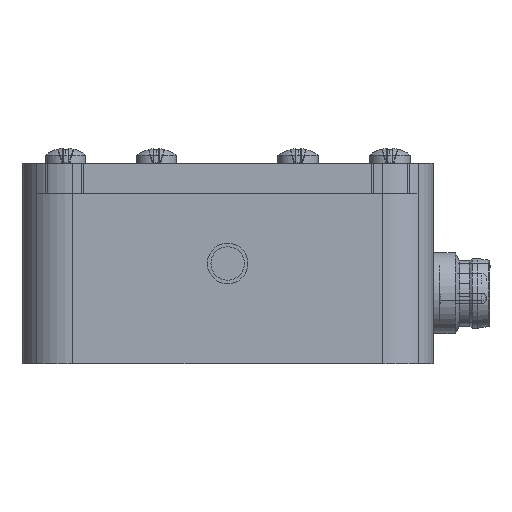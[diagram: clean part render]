
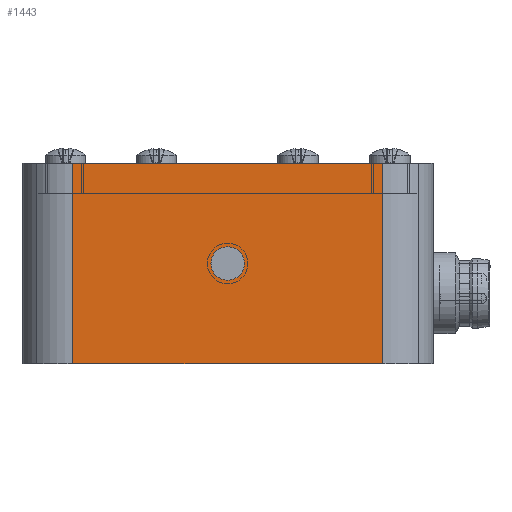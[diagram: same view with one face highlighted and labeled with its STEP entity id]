
A CAD part, left-side view. The second image highlights one B-rep face of the part: STEP entity #1443.
In plain terms, the highlighted planar face has unit normal (-1, 0, 0).
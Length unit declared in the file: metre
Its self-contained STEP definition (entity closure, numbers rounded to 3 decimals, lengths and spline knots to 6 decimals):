
#1443=ADVANCED_FACE('91:918',(#3264,#3265),#3266,.T.);
#3264=FACE_BOUND('',#5779,.T.);
#3265=FACE_OUTER_BOUND('',#5780,.T.);
#3266=PLANE('',#5781);
#5779=EDGE_LOOP('',(#10745,#10746));
#5780=EDGE_LOOP('',(#10747,#10748,#10749,#10750));
#5781=AXIS2_PLACEMENT_3D('',#10751,#10752,#10753);
#10745=ORIENTED_EDGE('',*,*,#16010,.T.);
#10746=ORIENTED_EDGE('',*,*,#16629,.T.);
#10747=ORIENTED_EDGE('',*,*,#15784,.F.);
#10748=ORIENTED_EDGE('',*,*,#16720,.T.);
#10749=ORIENTED_EDGE('',*,*,#16740,.F.);
#10750=ORIENTED_EDGE('',*,*,#16776,.T.);
#10751=CARTESIAN_POINT('',(-0.1721,0.0,0.0));
#10752=DIRECTION('',(-1.0,0.0,0.0));
#10753=DIRECTION('',(0.0,-1.0,0.0));
#15784=EDGE_CURVE('91:2376',#18614,#18616,#18617,.T.);
#16010=EDGE_CURVE('91:1818',#19038,#19042,#19044,.T.);
#16629=EDGE_CURVE('91:1818',#19042,#19038,#20065,.T.);
#16720=EDGE_CURVE('91:2202',#18614,#20180,#20182,.T.);
#16740=EDGE_CURVE('91:2265',#20209,#20180,#20211,.T.);
#16776=EDGE_CURVE('91:2379',#20209,#18616,#20249,.F.);
#18614=VERTEX_POINT('',#23125);
#18616=VERTEX_POINT('',#23127);
#18617=LINE('',#23128,#23129);
#19038=VERTEX_POINT('',#23732);
#19042=VERTEX_POINT('',#23737);
#19044=CIRCLE('',#23740,0.00165);
#20065=CIRCLE('',#24978,0.00165);
#20180=VERTEX_POINT('',#25164);
#20182=LINE('',#25166,#25167);
#20209=VERTEX_POINT('',#25205);
#20211=LINE('',#25207,#25208);
#20249=LINE('',#25251,#25252);
#23125=CARTESIAN_POINT('',(-0.1721,0.0153,0.0));
#23127=CARTESIAN_POINT('',(-0.1721,0.0153,0.0198));
#23128=CARTESIAN_POINT('',(-0.1721,0.0153,0.0));
#23129=VECTOR('',#30526,1.0);
#23732=CARTESIAN_POINT('',(-0.1721,0.00165,0.0099));
#23737=CARTESIAN_POINT('',(-0.1721,-0.00165,0.0099));
#23740=AXIS2_PLACEMENT_3D('',#30957,#30958,#30959);
#24978=AXIS2_PLACEMENT_3D('',#32380,#32381,#32382);
#25164=CARTESIAN_POINT('',(-0.1721,-0.0153,0.0));
#25166=CARTESIAN_POINT('',(-0.1721,0.0,0.0));
#25167=VECTOR('',#32577,1.0);
#25205=CARTESIAN_POINT('',(-0.1721,-0.0153,0.0198));
#25207=CARTESIAN_POINT('',(-0.1721,-0.0153,0.0));
#25208=VECTOR('',#32613,1.0);
#25251=CARTESIAN_POINT('',(-0.1721,0.0,0.0198));
#25252=VECTOR('',#32709,1.0);
#30526=DIRECTION('',(0.0,-0.0,1.0));
#30957=CARTESIAN_POINT('',(-0.1721,0.0,0.0099));
#30958=DIRECTION('',(1.0,0.0,0.0));
#30959=DIRECTION('',(0.0,1.0,0.0));
#32380=CARTESIAN_POINT('',(-0.1721,0.0,0.0099));
#32381=DIRECTION('',(1.0,0.0,0.0));
#32382=DIRECTION('',(0.0,1.0,0.0));
#32577=DIRECTION('',(-0.0,-1.0,-0.0));
#32613=DIRECTION('',(-0.0,-0.0,-1.0));
#32709=DIRECTION('',(-0.0,-1.0,-0.0));
